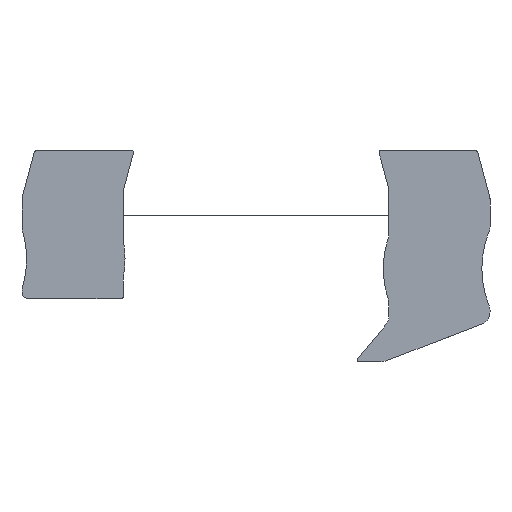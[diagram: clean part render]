
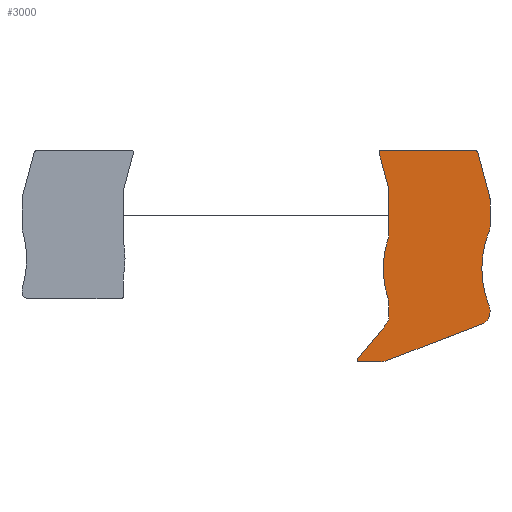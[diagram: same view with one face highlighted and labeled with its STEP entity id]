
A CAD part, top view. The second image highlights one B-rep face of the part: STEP entity #3000.
In plain terms, the highlighted planar face has unit normal (0, 0, 1).
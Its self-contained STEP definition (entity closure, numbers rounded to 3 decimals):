
#60=CARTESIAN_POINT('',(18.037,-41.1,54.17));
#70=DIRECTION('',(0.,0.,-1.));
#80=DIRECTION('',(-1.,0.,0.));
#90=AXIS2_PLACEMENT_3D('',#60,#70,#80);
#100=CIRCLE('',#90,0.3);
#110=CARTESIAN_POINT('',(17.737,-41.1,54.17));
#120=VERTEX_POINT('',#110);
#130=CARTESIAN_POINT('',(17.808,-40.906,54.17));
#140=VERTEX_POINT('',#130);
#150=EDGE_CURVE('',#120,#140,#100,.T.);
#680=CARTESIAN_POINT('',(22.11,-35.814,54.17));
#690=VERTEX_POINT('',#680);
#720=CARTESIAN_POINT('',(42.116,-12.13,54.17));
#730=DIRECTION('',(0.645,0.764,0.));
#740=VECTOR('',#730,1.);
#750=LINE('',#720,#740);
#760=EDGE_CURVE('',#140,#690,#750,.T.);
#880=CARTESIAN_POINT('',(29.114,-64.853,54.17));
#890=DIRECTION('',(0.,0.,1.));
#900=DIRECTION('',(-1.,0.,0.));
#910=AXIS2_PLACEMENT_3D('',#880,#890,#900);
#920=PLANE('',#910);
#930=CARTESIAN_POINT('',(18.037,-41.4,54.17));
#940=VERTEX_POINT('',#930);
#950=EDGE_CURVE('',#940,#120,#100,.T.);
#960=ORIENTED_EDGE('',*,*,#950,.F.);
#970=ORIENTED_EDGE('',*,*,#150,.F.);
#980=ORIENTED_EDGE('',*,*,#760,.F.);
#990=CARTESIAN_POINT('',(20.582,-34.523,54.17));
#1000=DIRECTION('',(0.,0.,1.));
#1010=DIRECTION('',(1.,0.,0.));
#1020=AXIS2_PLACEMENT_3D('',#990,#1000,#1010);
#1030=CIRCLE('',#1020,2.);
#1040=CARTESIAN_POINT('',(22.582,-34.523,54.17));
#1050=VERTEX_POINT('',#1040);
#1060=EDGE_CURVE('',#690,#1050,#1030,.T.);
#1070=ORIENTED_EDGE('',*,*,#1060,.F.);
#1080=CARTESIAN_POINT('',(22.582,-12.13,54.17));
#1090=DIRECTION('',(0.,1.,0.));
#1100=VECTOR('',#1090,1.);
#1110=LINE('',#1080,#1100);
#1120=CARTESIAN_POINT('',(22.582,-32.426,54.17));
#1130=VERTEX_POINT('',#1120);
#1140=EDGE_CURVE('',#1050,#1130,#1110,.T.);
#1150=ORIENTED_EDGE('',*,*,#1140,.F.);
#1160=CARTESIAN_POINT('',(20.582,-32.426,54.17));
#1170=DIRECTION('',(0.,0.,1.));
#1180=DIRECTION('',(1.,0.,0.));
#1190=AXIS2_PLACEMENT_3D('',#1160,#1170,#1180);
#1200=CIRCLE('',#1190,2.);
#1210=CARTESIAN_POINT('',(22.479,-31.791,54.17));
#1220=VERTEX_POINT('',#1210);
#1230=EDGE_CURVE('',#1130,#1220,#1200,.T.);
#1240=ORIENTED_EDGE('',*,*,#1230,.F.);
#1250=CARTESIAN_POINT('',(36.18,-27.2,54.17));
#1260=DIRECTION('',(0.,0.,1.));
#1270=DIRECTION('',(1.,0.,0.));
#1280=AXIS2_PLACEMENT_3D('',#1250,#1260,#1270);
#1290=CIRCLE('',#1280,14.45);
#1300=CARTESIAN_POINT('',(21.73,-27.2,54.17));
#1310=VERTEX_POINT('',#1300);
#1320=EDGE_CURVE('',#1310,#1220,#1290,.T.);
#1330=ORIENTED_EDGE('',*,*,#1320,.T.);
#1340=CARTESIAN_POINT('',(22.479,-22.609,54.17));
#1350=VERTEX_POINT('',#1340);
#1360=EDGE_CURVE('',#1350,#1310,#1290,.T.);
#1370=ORIENTED_EDGE('',*,*,#1360,.T.);
#1380=CARTESIAN_POINT('',(20.582,-21.974,54.17));
#1390=DIRECTION('',(0.,0.,1.));
#1400=DIRECTION('',(1.,0.,0.));
#1410=AXIS2_PLACEMENT_3D('',#1380,#1390,#1400);
#1420=CIRCLE('',#1410,2.);
#1430=CARTESIAN_POINT('',(22.582,-21.974,54.17));
#1440=VERTEX_POINT('',#1430);
#1450=EDGE_CURVE('',#1350,#1440,#1420,.T.);
#1460=ORIENTED_EDGE('',*,*,#1450,.F.);
#1470=CARTESIAN_POINT('',(22.582,-12.13,54.17));
#1480=DIRECTION('',(0.,1.,0.));
#1490=VECTOR('',#1480,1.);
#1500=LINE('',#1470,#1490);
#1510=CARTESIAN_POINT('',(22.582,-15.225,54.17));
#1520=VERTEX_POINT('',#1510);
#1530=EDGE_CURVE('',#1440,#1520,#1500,.T.);
#1540=ORIENTED_EDGE('',*,*,#1530,.F.);
#1550=CARTESIAN_POINT('',(21.582,-15.225,54.17));
#1560=DIRECTION('',(0.,0.,-1.));
#1570=DIRECTION('',(-1.,0.,0.));
#1580=AXIS2_PLACEMENT_3D('',#1550,#1560,#1570);
#1590=CIRCLE('',#1580,1.);
#1600=CARTESIAN_POINT('',(22.548,-14.966,54.17));
#1610=VERTEX_POINT('',#1600);
#1620=EDGE_CURVE('',#1610,#1520,#1590,.T.);
#1630=ORIENTED_EDGE('',*,*,#1620,.T.);
#1640=CARTESIAN_POINT('',(21.788,-12.13,54.17));
#1650=DIRECTION('',(-0.259,0.966,0.));
#1660=VECTOR('',#1650,1.);
#1670=LINE('',#1640,#1660);
#1680=CARTESIAN_POINT('',(21.091,-9.528,54.17));
#1690=VERTEX_POINT('',#1680);
#1700=EDGE_CURVE('',#1610,#1690,#1670,.T.);
#1710=ORIENTED_EDGE('',*,*,#1700,.F.);
#1720=CARTESIAN_POINT('',(21.381,-9.45,54.17));
#1730=DIRECTION('',(0.,0.,-1.));
#1740=DIRECTION('',(-1.,0.,0.));
#1750=AXIS2_PLACEMENT_3D('',#1720,#1730,#1740);
#1760=CIRCLE('',#1750,0.3);
#1770=CARTESIAN_POINT('',(21.081,-9.45,54.17));
#1780=VERTEX_POINT('',#1770);
#1790=EDGE_CURVE('',#1690,#1780,#1760,.T.);
#1800=ORIENTED_EDGE('',*,*,#1790,.F.);
#1810=CARTESIAN_POINT('',(21.381,-9.15,54.17));
#1820=VERTEX_POINT('',#1810);
#1830=EDGE_CURVE('',#1780,#1820,#1760,.T.);
#1840=ORIENTED_EDGE('',*,*,#1830,.F.);
#1850=CARTESIAN_POINT('',(11.446,-9.15,54.17));
#1860=DIRECTION('',(1.,0.,0.));
#1870=VECTOR('',#1860,1.);
#1880=LINE('',#1850,#1870);
#1890=CARTESIAN_POINT('',(35.688,-9.15,54.17));
#1900=VERTEX_POINT('',#1890);
#1910=EDGE_CURVE('',#1820,#1900,#1880,.T.);
#1920=ORIENTED_EDGE('',*,*,#1910,.F.);
#1930=CARTESIAN_POINT('',(35.688,-9.65,54.17));
#1940=DIRECTION('',(0.,0.,1.));
#1950=DIRECTION('',(1.,0.,0.));
#1960=AXIS2_PLACEMENT_3D('',#1930,#1940,#1950);
#1970=CIRCLE('',#1960,0.5);
#1980=CARTESIAN_POINT('',(36.171,-9.521,54.17));
#1990=VERTEX_POINT('',#1980);
#2000=EDGE_CURVE('',#1990,#1900,#1970,.T.);
#2010=ORIENTED_EDGE('',*,*,#2000,.T.);
#2020=CARTESIAN_POINT('',(36.87,-12.13,54.17));
#2030=DIRECTION('',(0.259,-0.966,0.));
#2040=VECTOR('',#2030,1.);
#2050=LINE('',#2020,#2040);
#2060=CARTESIAN_POINT('',(38.015,-16.402,54.17));
#2070=VERTEX_POINT('',#2060);
#2080=EDGE_CURVE('',#1990,#2070,#2050,.T.);
#2090=ORIENTED_EDGE('',*,*,#2080,.F.);
#2100=CARTESIAN_POINT('',(37.532,-16.531,54.17));
#2110=DIRECTION('',(0.,0.,-1.));
#2120=DIRECTION('',(-1.,0.,0.));
#2130=AXIS2_PLACEMENT_3D('',#2100,#2110,#2120);
#2140=CIRCLE('',#2130,0.5);
#2150=CARTESIAN_POINT('',(38.032,-16.531,54.17));
#2160=VERTEX_POINT('',#2150);
#2170=EDGE_CURVE('',#2070,#2160,#2140,.T.);
#2180=ORIENTED_EDGE('',*,*,#2170,.F.);
#2190=CARTESIAN_POINT('',(38.032,-12.13,54.17));
#2200=DIRECTION('',(0.,-1.,0.));
#2210=VECTOR('',#2200,1.);
#2220=LINE('',#2190,#2210);
#2230=CARTESIAN_POINT('',(38.032,-20.796,54.17));
#2240=VERTEX_POINT('',#2230);
#2250=EDGE_CURVE('',#2160,#2240,#2220,.T.);
#2260=ORIENTED_EDGE('',*,*,#2250,.F.);
#2270=CARTESIAN_POINT('',(36.032,-20.796,54.17));
#2280=DIRECTION('',(0.,0.,1.));
#2290=DIRECTION('',(1.,0.,0.));
#2300=AXIS2_PLACEMENT_3D('',#2270,#2280,#2290);
#2310=CIRCLE('',#2300,2.);
#2320=CARTESIAN_POINT('',(37.885,-21.55,54.17));
#2330=VERTEX_POINT('',#2320);
#2340=EDGE_CURVE('',#2330,#2240,#2310,.T.);
#2350=ORIENTED_EDGE('',*,*,#2340,.T.);
#2360=CARTESIAN_POINT('',(51.78,-27.2,54.17));
#2370=DIRECTION('',(0.,0.,1.));
#2380=DIRECTION('',(1.,0.,0.));
#2390=AXIS2_PLACEMENT_3D('',#2360,#2370,#2380);
#2400=CIRCLE('',#2390,15.);
#2410=CARTESIAN_POINT('',(36.78,-27.2,54.17));
#2420=VERTEX_POINT('',#2410);
#2430=EDGE_CURVE('',#2330,#2420,#2400,.T.);
#2440=ORIENTED_EDGE('',*,*,#2430,.F.);
#2450=CARTESIAN_POINT('',(37.885,-32.85,54.17));
#2460=VERTEX_POINT('',#2450);
#2470=EDGE_CURVE('',#2420,#2460,#2400,.T.);
#2480=ORIENTED_EDGE('',*,*,#2470,.F.);
#2490=CARTESIAN_POINT('',(36.032,-33.604,54.17));
#2500=DIRECTION('',(0.,0.,1.));
#2510=DIRECTION('',(1.,0.,0.));
#2520=AXIS2_PLACEMENT_3D('',#2490,#2500,#2510);
#2530=CIRCLE('',#2520,2.);
#2540=CARTESIAN_POINT('',(38.032,-33.604,54.17));
#2550=VERTEX_POINT('',#2540);
#2560=EDGE_CURVE('',#2550,#2460,#2530,.T.);
#2570=ORIENTED_EDGE('',*,*,#2560,.T.);
#2580=CARTESIAN_POINT('',(38.032,-12.13,54.17));
#2590=DIRECTION('',(0.,-1.,0.));
#2600=VECTOR('',#2590,1.);
#2610=LINE('',#2580,#2600);
#2620=CARTESIAN_POINT('',(38.032,-33.826,54.17));
#2630=VERTEX_POINT('',#2620);
#2640=EDGE_CURVE('',#2550,#2630,#2610,.T.);
#2650=ORIENTED_EDGE('',*,*,#2640,.F.);
#2660=CARTESIAN_POINT('',(36.032,-33.826,54.17));
#2670=DIRECTION('',(0.,0.,1.));
#2680=DIRECTION('',(1.,0.,0.));
#2690=AXIS2_PLACEMENT_3D('',#2660,#2670,#2680);
#2700=CIRCLE('',#2690,2.);
#2710=CARTESIAN_POINT('',(36.75,-35.693,54.17));
#2720=VERTEX_POINT('',#2710);
#2730=EDGE_CURVE('',#2720,#2630,#2700,.T.);
#2740=ORIENTED_EDGE('',*,*,#2730,.T.);
#2750=CARTESIAN_POINT('',(11.446,-45.422,54.17));
#2760=DIRECTION('',(-0.933,-0.359,0.));
#2770=VECTOR('',#2760,1.);
#2780=LINE('',#2750,#2770);
#2790=CARTESIAN_POINT('',(22.253,-41.267,54.17));
#2800=VERTEX_POINT('',#2790);
#2810=EDGE_CURVE('',#2720,#2800,#2780,.T.);
#2820=ORIENTED_EDGE('',*,*,#2810,.F.);
#2830=CARTESIAN_POINT('',(21.535,-39.4,54.17));
#2840=DIRECTION('',(0.,0.,1.));
#2850=DIRECTION('',(1.,0.,0.));
#2860=AXIS2_PLACEMENT_3D('',#2830,#2840,#2850);
#2870=CIRCLE('',#2860,2.);
#2880=CARTESIAN_POINT('',(21.535,-41.4,54.17));
#2890=VERTEX_POINT('',#2880);
#2900=EDGE_CURVE('',#2890,#2800,#2870,.T.);
#2910=ORIENTED_EDGE('',*,*,#2900,.T.);
#2920=CARTESIAN_POINT('',(11.446,-41.4,54.17));
#2930=DIRECTION('',(-1.,0.,0.));
#2940=VECTOR('',#2930,1.);
#2950=LINE('',#2920,#2940);
#2960=EDGE_CURVE('',#2890,#940,#2950,.T.);
#2970=ORIENTED_EDGE('',*,*,#2960,.F.);
#2980=EDGE_LOOP('',(#2970,#2910,#2820,#2740,#2650,#2570,#2480,#2440,
#2350,#2260,#2180,#2090,#2010,#1920,#1840,#1800,#1710,#1630,#1540,#1460,
#1370,#1330,#1240,#1150,#1070,#980,#970,#960));
#2990=FACE_OUTER_BOUND('',#2980,.T.);
#3000=ADVANCED_FACE('',(#2990),#920,.T.);
